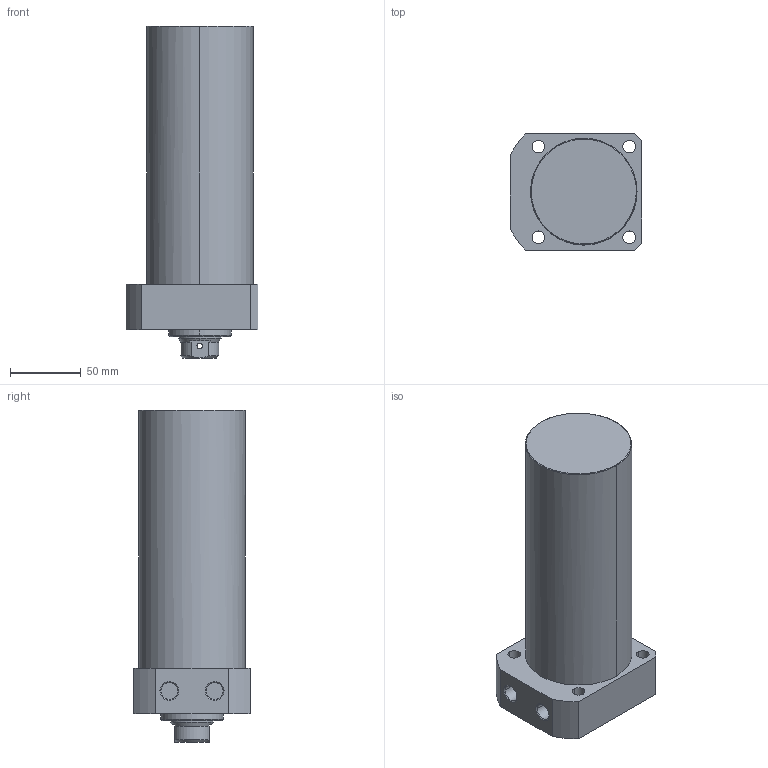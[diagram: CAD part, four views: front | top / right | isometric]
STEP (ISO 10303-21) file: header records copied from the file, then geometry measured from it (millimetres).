
FILE_DESCRIPTION((' '),'2;1');
FILE_NAME( 'TLLR-075CB-145.STEP.stp', '2025-10-24T16:35:10', (' '), ('--- Datakit www.datakit.com---'), ' Datakit CrossCadWare V2024.1 Dec 21 2023', 'Mastercam 2025', ' ');
FILE_SCHEMA(('AUTOMOTIVE_DESIGN { 1 0 10303 214 1 1 1 1 }'));
Length unit declared in the file: millimetre
Products named in the file (1): TLLR-075CB-145
Bounding box: 93 x 82 x 234 mm (x, y, z)
Volume: 1039024.1 mm3; surface area: 76622.8 mm2
Topology: 1 solids, 1 shells, 67 faces, 197 edges, 136 vertices
Faces by surface type: cylinder 32, plane 19, cone 14, torus 2
Entity records: 3386 total; most frequent: CARTESIAN_POINT 1467, DIRECTION 426, ORIENTED_EDGE 390, EDGE_CURVE 195, AXIS2_PLACEMENT_3D 179, VERTEX_POINT 136, CIRCLE 111, EDGE_LOOP 85
